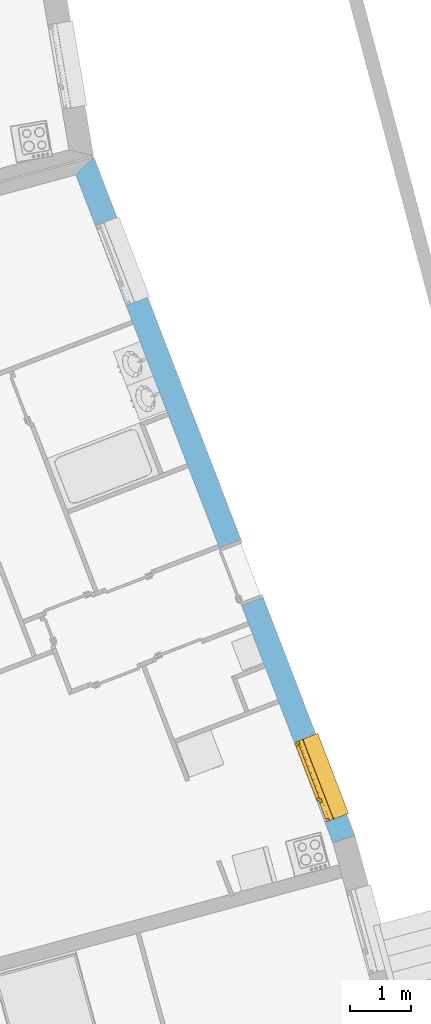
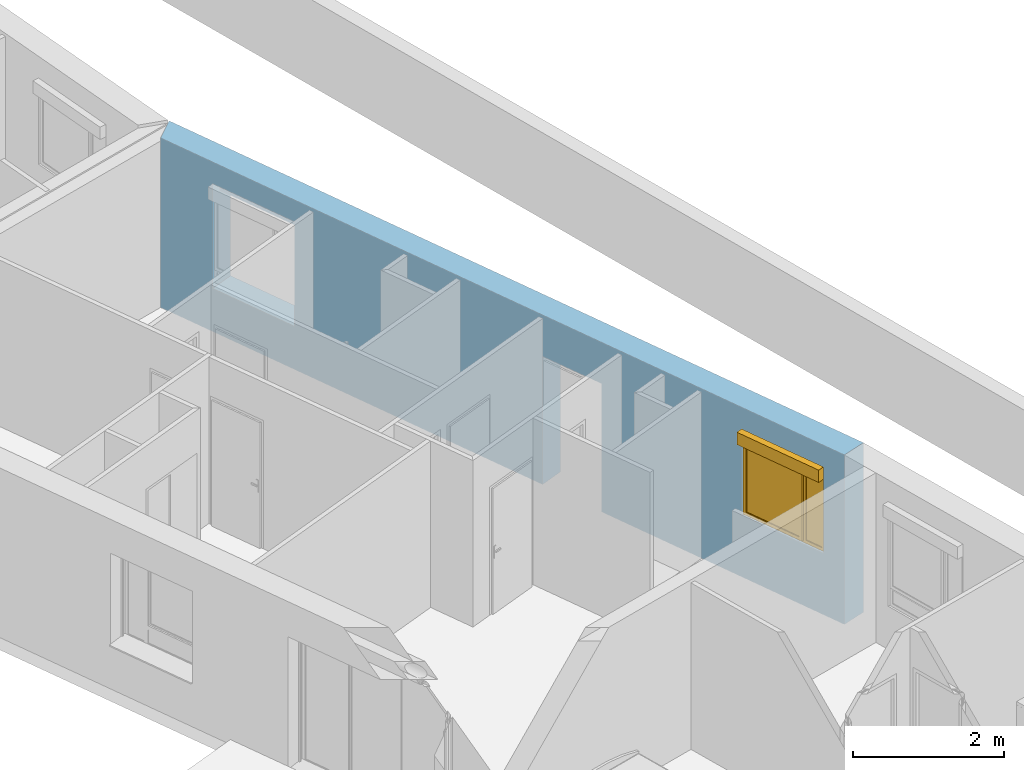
# One storey, part 79 of 195: 1 window, 3 openings, plus 1 element that does not belong to this part.
"""IFC2X3 building model written with IfcOpenShell, lengths in metres."""

from ifc_helpers import new_model, entity, si_unit, converted_unit, derived_unit, money_unit, direction, frame, origin_with_axes, origin_2d_with_axis, place, context, subcontext, project, spatial, polyline, rectangle, outline, extrude, open_shell, faceted_brep, surface_model, source, transform, mapped, material, layer, layer_set, layer_usage, type_object, element, fill, save


model = new_model("IFC2X3")

# Units and contexts
model_context = context("Model", 3, precision=1e-05, world=origin_with_axes(), true_north=direction((0.0, 1.0)))
body_context = subcontext(model_context, "Body", "Model", "MODEL_VIEW")
ifc_project = project(units=[si_unit("LENGTHUNIT", "METRE"), si_unit("AREAUNIT", "SQUARE_METRE"), si_unit("VOLUMEUNIT", "CUBIC_METRE"), converted_unit("PLANEANGLEUNIT", "DEGREE", entity("IfcPlaneAngleMeasure", 0.0174532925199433), si_unit("PLANEANGLEUNIT", "RADIAN"), dimensions=[0, 0, 0, 0, 0, 0, 0]), money_unit("CHF"), converted_unit("TIMEUNIT", "Year", entity("IfcTimeMeasure", 31557600.0), si_unit("TIMEUNIT", "SECOND"), dimensions=[0, 0, 1, 0, 0, 0, 0]), si_unit("MASSUNIT", "GRAM", prefix="KILO"), si_unit("THERMODYNAMICTEMPERATUREUNIT", "DEGREE_CELSIUS"), si_unit("LUMINOUSINTENSITYUNIT", "LUMEN"), si_unit("ENERGYUNIT", "JOULE", prefix="MEGA"), derived_unit("THERMALCONDUCTANCEUNIT", [(si_unit("POWERUNIT", "WATT"), 1), (si_unit("LENGTHUNIT", "METRE"), -1), (si_unit("THERMODYNAMICTEMPERATUREUNIT", "KELVIN"), -1)]), derived_unit("SPECIFICHEATCAPACITYUNIT", [(si_unit("ENERGYUNIT", "JOULE"), 1), (si_unit("MASSUNIT", "GRAM", prefix="KILO"), -1), (si_unit("THERMODYNAMICTEMPERATUREUNIT", "KELVIN"), -1)]), derived_unit("MASSDENSITYUNIT", [(si_unit("MASSUNIT", "GRAM", prefix="KILO"), 1), (si_unit("VOLUMEUNIT", "CUBIC_METRE"), -1)])], contexts=[model_context])

# Site, building, storey
site_placement = place(None, origin_with_axes())
site = spatial("IfcSite", under=ifc_project, at=site_placement, Name="Site", CompositionType="ELEMENT")
building_placement = place(site_placement, origin_with_axes())
building = spatial("IfcBuilding", under=site, at=building_placement, Name="Bâtiment", CompositionType="ELEMENT")
storey_placement = place(building_placement, origin_with_axes())
storey = spatial("IfcBuildingStorey", under=building, at=storey_placement, Name="rdc", CompositionType="ELEMENT", Elevation=0.0)

# Wall, openings, window
ifc_material_1 = material(Name="Parpaing 312445824")
ifc_layer_1 = layer(ifc_material_1, 0.22, ventilated="UNKNOWN")
ifc_material_2 = material(Name="Isolant styromousse 301821074")
ifc_layer_2 = layer(ifc_material_2, 0.16, ventilated="UNKNOWN")
ifc_layer_set = layer_set([ifc_layer_1, ifc_layer_2], Name="isol int 22+16 0836643197")
ifc_layer_usage = layer_usage(ifc_layer_set, "AXIS2", "NEGATIVE", 0.0)
wall_type = type_object("IfcWallType", Name="isol int 22+16 0836643197 380", PredefinedType="NOTDEFINED")
wall_placement = place(storey_placement, frame((9589.41527848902, -1033.618668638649, 57.7), z_axis=(0.0, 0.0, 1.0), x_axis=(0.3591526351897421, -0.9332788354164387, 0.0)))
wall = element("IfcWallStandardCase", 1, at=wall_placement, inside=storey, type_object=wall_type, material=ifc_layer_usage, Name="Mur-113", context=body_context, shape_type="SweptSolid", body=[
    extrude(outline(polyline([(0.162329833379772, -0.3800000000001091), (11.8445257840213, -0.3800000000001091), (11.8638283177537, 0.0), (0.0, 0.0), (0.162329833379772, -0.3800000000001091)])), origin_with_axes(), (0.0, 0.0, 1.0), 2.75),
])
opening_1_placement = place(wall_placement, frame((1.751472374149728, 0.0, 0.7000000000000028), z_axis=(0.0, 0.0, 1.0), x_axis=(1.0, 0.0, 0.0)))
element("IfcOpeningElement", 2, at=opening_1_placement, cuts=wall, Name="Fen-045", context=body_context, shape_type="Brep", body=[
    faceted_brep([(-0.7000000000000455, -0.220000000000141, 1.5), (0.6999999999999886, -0.2200000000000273, 1.5), (0.6999999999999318, 3.977631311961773, 1.5), (-0.7000000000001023, 3.977631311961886, 1.5), (-0.7000000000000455, -0.220000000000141, 1.700000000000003), (0.6999999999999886, -0.2200000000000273, 1.700000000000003), (0.6999999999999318, -0.3000000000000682, 1.5), (0.6999999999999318, -0.3000000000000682, 0.0), (0.6999999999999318, 3.977631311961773, 0.0), (-0.7000000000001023, 3.977631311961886, 0.0), (-0.7000000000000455, -0.3000000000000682, 1.5), (-0.7000000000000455, -0.3000000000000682, 0.0), (-0.7000000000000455, -0.4800000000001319, 1.5), (-0.7000000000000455, -0.4800000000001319, 1.700000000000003), (0.6999999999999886, -0.4800000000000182, 1.700000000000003), (0.6999999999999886, -0.4800000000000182, 1.5), (0.6999999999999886, -4.357631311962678, 1.5), (0.6999999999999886, -4.357631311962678, 0.0), (-0.6999999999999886, -4.357631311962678, 0.0), (-0.6999999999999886, -4.357631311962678, 1.5)], [[[0, 1, 2, 3]], [[1, 0, 4, 5]], [[1, 6, 7, 8, 2]], [[2, 8, 9, 3]], [[10, 0, 3, 9, 11]], [[0, 10, 12, 13, 4]], [[14, 5, 4, 13]], [[6, 1, 5, 14, 15]], [[6, 15, 16, 17, 7]], [[7, 11, 9, 8]], [[12, 10, 11, 18, 19]], [[12, 15, 14, 13]], [[15, 12, 19, 16]], [[19, 18, 17, 16]], [[11, 7, 17, 18]]]),
])
opening_2_placement = place(wall_placement, frame((10.78837826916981, 0.0, 1.0), z_axis=(0.0, 0.0, 1.0), x_axis=(1.0, 0.0, 0.0)))
opening_2 = element("IfcOpeningElement", 3, at=opening_2_placement, cuts=wall, Name="Fen-045", context=body_context, shape_type="Brep", body=[
    faceted_brep([(-0.7000000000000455, -0.220000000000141, 1.200000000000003), (0.6999999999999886, -0.2200000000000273, 1.200000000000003), (0.6999999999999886, 3.977631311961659, 1.200000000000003), (-0.6999999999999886, 3.977631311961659, 1.200000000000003), (-0.7000000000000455, -0.220000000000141, 1.399999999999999), (0.6999999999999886, -0.2200000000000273, 1.399999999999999), (0.6999999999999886, -0.3000000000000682, 1.200000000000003), (0.6999999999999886, -0.3000000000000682, 0.0), (0.6999999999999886, 3.977631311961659, 0.0), (-0.6999999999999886, 3.977631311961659, 0.0), (-0.7000000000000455, -0.3000000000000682, 1.200000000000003), (-0.7000000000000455, -0.3000000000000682, 0.0), (-0.7000000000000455, -0.4800000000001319, 1.200000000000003), (-0.7000000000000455, -0.4800000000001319, 1.399999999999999), (0.6999999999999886, -0.4800000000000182, 1.399999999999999), (0.6999999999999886, -0.4800000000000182, 1.200000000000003), (0.7000000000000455, -4.357631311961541, 1.200000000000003), (0.7000000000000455, -4.357631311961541, 0.0), (-0.7000000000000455, -4.357631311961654, 0.0), (-0.7000000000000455, -4.357631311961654, 1.200000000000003)], [[[0, 1, 2, 3]], [[1, 0, 4, 5]], [[1, 6, 7, 8, 2]], [[2, 8, 9, 3]], [[10, 0, 3, 9, 11]], [[0, 10, 12, 13, 4]], [[14, 5, 4, 13]], [[6, 1, 5, 14, 15]], [[6, 15, 16, 17, 7]], [[7, 11, 9, 8]], [[12, 10, 11, 18, 19]], [[12, 15, 14, 13]], [[15, 12, 19, 16]], [[19, 18, 17, 16]], [[11, 7, 17, 18]]]),
])
opening_3_placement = place(wall_placement, frame((7.19412400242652, 0.0, 0.0), z_axis=(0.0, 0.0, 1.0), x_axis=(1.0, 0.0, 0.0)))
element("IfcOpeningElement", 4, at=opening_3_placement, cuts=wall, Name="Por-290", context=body_context, shape_type="SweptSolid", body=[
    extrude(rectangle(XDim=1.01000001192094, YDim=2.079999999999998, at=origin_2d_with_axis()), frame((-5.960487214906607e-09, 0.3799999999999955, 1.039999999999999), z_axis=(0.0, -1.0, 0.0), x_axis=(-1.0, 0.0, 0.0)), (0.0, 0.0, 1.0), 0.76),
])
window_style = type_object("IfcWindowStyle", Name="Fenêtre variable 27", ConstructionType="NOTDEFINED", OperationType="DOUBLE_PANEL_VERTICAL", ParameterTakesPrecedence=False, Sizeable=False)
shared_shape = source(origin_with_axes(), body_context, "Body", "SurfaceModel", [
    surface_model("IfcShellBasedSurfaceModel", [(0.7, -0.05100000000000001, 0.05), (-0.7, -0.05100000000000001, 0.05000000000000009), (-0.7, -0.05100000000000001, 0.04000000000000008), (0.7, -0.05100000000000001, 0.04), (-0.7, -0.3799999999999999, 0.02900000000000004), (0.7, -0.3799999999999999, 0.02899999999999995), (-0.7, -0.3799999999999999, 0.00900000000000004), (0.7, -0.3799999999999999, 0.008999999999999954), (-0.7, -0.3699999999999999, 0.01900000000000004), (0.7, -0.3699999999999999, 0.01899999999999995)], [open_shell([[[0, 1, 2, 3]], [[3, 2, 4, 5]], [[5, 4, 6, 7]], [[7, 6, 8, 9]]])]),
    faceted_brep([(0.7, -0.13, 1.4), (0.7, 0.13, 1.4), (0.697, 0.13, 1.4), (0.697, -0.13, 1.4), (0.7, -0.13, 1.2), (0.7, 0.13, 1.2), (0.697, 0.13, 1.2), (0.697, -0.13, 1.2)], [[[0, 1, 2, 3]], [[0, 4, 5, 1]], [[1, 5, 6, 2]], [[3, 2, 6, 7]], [[4, 0, 3, 7]], [[5, 4, 7, 6]]]),
    faceted_brep([(-0.6970000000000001, -0.1299999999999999, 1.4), (-0.6970000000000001, 0.1300000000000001, 1.4), (-0.7000000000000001, 0.1300000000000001, 1.4), (-0.7000000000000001, -0.1299999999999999, 1.4), (-0.6970000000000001, -0.1299999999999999, 1.2), (-0.6970000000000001, 0.1300000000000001, 1.2), (-0.7000000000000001, 0.1300000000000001, 1.2), (-0.7000000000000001, -0.1299999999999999, 1.2)], [[[0, 1, 2, 3]], [[0, 4, 5, 1]], [[1, 5, 6, 2]], [[3, 2, 6, 7]], [[4, 0, 3, 7]], [[5, 4, 7, 6]]]),
    faceted_brep([(0.697, -0.13, 1.2), (0.697, -0.13, 1.4), (-0.697, -0.1299999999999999, 1.4), (-0.697, -0.1299999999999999, 1.2), (0.697, -0.127, 1.2), (0.697, -0.127, 1.397), (0.697, 0.127, 1.397), (0.697, 0.127, 1.203), (0.697, -0.108, 1.203), (0.697, -0.108, 1.2), (0.697, 0.13, 1.2), (0.697, 0.13, 1.4), (-0.697, 0.1300000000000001, 1.4), (-0.697, 0.1300000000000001, 1.2), (-0.697, -0.1079999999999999, 1.2), (-0.697, -0.1079999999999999, 1.203), (-0.697, 0.1270000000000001, 1.203), (-0.697, 0.1270000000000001, 1.397), (-0.697, -0.1269999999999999, 1.397), (-0.697, -0.1269999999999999, 1.2)], [[[0, 1, 2, 3]], [[0, 4, 5, 6, 7, 8, 9, 10, 11, 1]], [[1, 11, 12, 2]], [[3, 2, 12, 13, 14, 15, 16, 17, 18, 19]], [[4, 0, 3, 19]], [[5, 4, 19, 18]], [[6, 5, 18, 17]], [[7, 6, 17, 16]], [[8, 7, 16, 15]], [[9, 8, 15, 14]], [[10, 9, 14, 13]], [[11, 10, 13, 12]]]),
    faceted_brep([(0.694, -0.08075423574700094, 1.285760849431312), (0.694, -0.07705479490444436, 1.271954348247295), (0.694, -0.07101408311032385, 1.259), (0.694, -0.06281564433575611, 1.247291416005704), (0.694, -0.05270858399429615, 1.237184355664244), (0.694, -0.04099999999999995, 1.228985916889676), (0.694, -0.02804565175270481, 1.222945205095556), (0.694, -0.01423915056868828, 1.219245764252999), (0.694, 0.0, 1.218), (0.694, 0.01423915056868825, 1.219245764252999), (0.694, 0.02804565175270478, 1.222945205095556), (0.694, 0.04099999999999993, 1.228985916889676), (0.694, 0.05270858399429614, 1.237184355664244), (0.694, 0.06281564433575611, 1.247291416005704), (0.694, 0.07101408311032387, 1.259), (0.694, 0.07705479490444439, 1.271954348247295), (0.694, 0.08075423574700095, 1.285760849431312), (0.694, 0.0819999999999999, 1.3), (0.694, 0.08075423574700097, 1.314239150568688), (0.694, 0.0770547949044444, 1.328045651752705), (0.694, 0.07101408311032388, 1.341), (0.694, 0.06281564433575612, 1.352708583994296), (0.694, 0.05270858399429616, 1.362815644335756), (0.694, 0.04099999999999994, 1.371014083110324), (0.694, 0.02804565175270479, 1.377054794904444), (0.694, 0.01423915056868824, 1.380754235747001), (0.694, 0.0, 1.382), (0.694, -0.01423915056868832, 1.380754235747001), (0.694, -0.02804565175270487, 1.377054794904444), (0.694, -0.04100000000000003, 1.371014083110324), (0.694, -0.05270858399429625, 1.362815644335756), (0.694, -0.06281564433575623, 1.352708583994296), (0.694, -0.07101408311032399, 1.341), (0.694, -0.07705479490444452, 1.328045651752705), (0.694, -0.0807542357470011, 1.314239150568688), (0.694, -0.08200000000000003, 1.3), (-0.694, -0.08075423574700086, 1.285760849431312), (-0.694, -0.07705479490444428, 1.271954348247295), (-0.694, -0.07101408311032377, 1.259), (-0.694, -0.06281564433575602, 1.247291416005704), (-0.694, -0.05270858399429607, 1.237184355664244), (-0.694, -0.04099999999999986, 1.228985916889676), (-0.694, -0.02804565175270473, 1.222945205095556), (-0.694, -0.0142391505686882, 1.219245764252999), (-0.694, 0.0, 1.218), (-0.694, 0.01423915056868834, 1.219245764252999), (-0.694, 0.02804565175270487, 1.222945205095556), (-0.694, 0.04100000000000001, 1.228985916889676), (-0.694, 0.05270858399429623, 1.237184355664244), (-0.694, 0.06281564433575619, 1.247291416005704), (-0.694, 0.07101408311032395, 1.259), (-0.694, 0.07705479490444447, 1.271954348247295), (-0.694, 0.08075423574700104, 1.285760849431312), (-0.694, 0.08199999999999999, 1.3), (-0.694, 0.08075423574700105, 1.314239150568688), (-0.694, 0.07705479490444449, 1.328045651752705), (-0.694, 0.07101408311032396, 1.341), (-0.694, 0.0628156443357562, 1.352708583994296), (-0.694, 0.05270858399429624, 1.362815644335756), (-0.694, 0.04100000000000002, 1.371014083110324), (-0.694, 0.02804565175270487, 1.377054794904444), (-0.694, 0.01423915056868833, 1.380754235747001), (-0.694, 0.0, 1.382), (-0.694, -0.01423915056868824, 1.380754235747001), (-0.694, -0.02804565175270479, 1.377054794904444), (-0.694, -0.04099999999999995, 1.371014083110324), (-0.694, -0.05270858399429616, 1.362815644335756), (-0.694, -0.06281564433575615, 1.352708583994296), (-0.694, -0.07101408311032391, 1.341), (-0.694, -0.07705479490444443, 1.328045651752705), (-0.694, -0.08075423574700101, 1.314239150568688), (-0.694, -0.08199999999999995, 1.3)], [[[0, 1, 2, 3, 4, 5, 6, 7, 8, 9, 10, 11, 12, 13, 14, 15, 16, 17, 18, 19, 20, 21, 22, 23, 24, 25, 26, 27, 28, 29, 30, 31, 32, 33, 34, 35]], [[1, 0, 36, 37]], [[2, 1, 37, 38]], [[3, 2, 38, 39]], [[4, 3, 39, 40]], [[5, 4, 40, 41]], [[6, 5, 41, 42]], [[7, 6, 42, 43]], [[8, 7, 43, 44]], [[9, 8, 44, 45]], [[10, 9, 45, 46]], [[11, 10, 46, 47]], [[12, 11, 47, 48]], [[13, 12, 48, 49]], [[14, 13, 49, 50]], [[15, 14, 50, 51]], [[16, 15, 51, 52]], [[17, 16, 52, 53]], [[18, 17, 53, 54]], [[19, 18, 54, 55]], [[20, 19, 55, 56]], [[21, 20, 56, 57]], [[22, 21, 57, 58]], [[23, 22, 58, 59]], [[24, 23, 59, 60]], [[25, 24, 60, 61]], [[26, 25, 61, 62]], [[27, 26, 62, 63]], [[28, 27, 63, 64]], [[29, 28, 64, 65]], [[30, 29, 65, 66]], [[31, 30, 66, 67]], [[32, 31, 67, 68]], [[33, 32, 68, 69]], [[34, 33, 69, 70]], [[35, 34, 70, 71]], [[0, 35, 71, 36]], [[36, 71, 70, 69, 68, 67, 66, 65, 64, 63, 62, 61, 60, 59, 58, 57, 56, 55, 54, 53, 52, 51, 50, 49, 48, 47, 46, 45, 44, 43, 42, 41, 40, 39, 38, 37]]]),
    faceted_brep([(-0.7, -0.105, 0.03), (-0.7, -0.13, 0.03), (-0.7, -0.1299999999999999, 1.2), (-0.7, -0.1049999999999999, 1.2), (-0.6749999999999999, -0.105, 0.03), (-0.6749999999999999, -0.108, 0.03), (-0.697, -0.108, 0.03), (-0.697, -0.127, 0.03), (-0.6749999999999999, -0.127, 0.03), (-0.6749999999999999, -0.13, 0.03), (-0.6749999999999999, -0.1299999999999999, 1.2), (-0.6749999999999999, -0.1269999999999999, 1.2), (-0.697, -0.1269999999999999, 1.2), (-0.697, -0.1079999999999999, 1.2), (-0.6749999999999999, -0.1079999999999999, 1.2), (-0.6749999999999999, -0.1049999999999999, 1.2)], [[[0, 1, 2, 3]], [[0, 4, 5, 6, 7, 8, 9, 1]], [[1, 9, 10, 2]], [[3, 2, 10, 11, 12, 13, 14, 15]], [[4, 0, 3, 15]], [[5, 4, 15, 14]], [[6, 5, 14, 13]], [[7, 6, 13, 12]], [[8, 7, 12, 11]], [[9, 8, 11, 10]]]),
    faceted_brep([(0.7, -0.105, 0.03), (0.7, -0.1049999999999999, 1.2), (0.7, -0.1299999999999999, 1.2), (0.7, -0.13, 0.03), (0.6749999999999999, -0.105, 0.03), (0.6749999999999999, -0.1049999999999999, 1.2), (0.6749999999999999, -0.1079999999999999, 1.2), (0.697, -0.1079999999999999, 1.2), (0.697, -0.1269999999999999, 1.2), (0.6749999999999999, -0.1269999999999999, 1.2), (0.6749999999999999, -0.1299999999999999, 1.2), (0.6749999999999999, -0.13, 0.03), (0.6749999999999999, -0.127, 0.03), (0.697, -0.127, 0.03), (0.697, -0.108, 0.03), (0.6749999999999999, -0.108, 0.03)], [[[0, 1, 2, 3]], [[4, 5, 1, 0]], [[1, 5, 6, 7, 8, 9, 10, 2]], [[3, 2, 10, 11]], [[0, 3, 11, 12, 13, 14, 15, 4]], [[15, 6, 5, 4]], [[14, 7, 6, 15]], [[13, 8, 7, 14]], [[12, 9, 8, 13]], [[11, 10, 9, 12]]]),
    surface_model("IfcShellBasedSurfaceModel", [(0.697, -0.115, 1.3), (-0.697, -0.1149999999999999, 1.3), (-0.697, -0.12, 1.3), (0.697, -0.12, 1.3), (0.697, -0.115, 1.3), (0.697, -0.12, 1.3), (-0.697, -0.1199999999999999, 1.3), (-0.697, -0.1149999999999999, 1.3)], [open_shell([[[0, 1, 2, 3]], [[4, 5, 6, 7]]])]),
    faceted_brep([(0.697, -0.115, 1.3), (0.697, -0.1166666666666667, 1.283333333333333), (-0.697, -0.1166666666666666, 1.283333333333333), (-0.697, -0.1149999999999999, 1.3), (0.697, -0.12, 1.3), (0.697, -0.1216666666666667, 1.283333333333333), (0.697, -0.1216666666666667, 1.266666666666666), (0.697, -0.12, 1.25), (0.697, -0.115, 1.25), (0.697, -0.1166666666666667, 1.266666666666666), (-0.697, -0.1166666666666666, 1.266666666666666), (-0.697, -0.1149999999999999, 1.25), (-0.697, -0.1199999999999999, 1.25), (-0.697, -0.1216666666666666, 1.266666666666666), (-0.697, -0.1216666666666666, 1.283333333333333), (-0.697, -0.1199999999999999, 1.3)], [[[0, 1, 2, 3]], [[0, 4, 5, 6, 7, 8, 9, 1]], [[1, 9, 10, 2]], [[3, 2, 10, 11, 12, 13, 14, 15]], [[4, 0, 3, 15]], [[5, 4, 15, 14]], [[6, 5, 14, 13]], [[7, 6, 13, 12]], [[8, 7, 12, 11]], [[9, 8, 11, 10]]]),
    faceted_brep([(0.697, -0.115, 1.25), (0.697, -0.1166666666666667, 1.233333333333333), (-0.697, -0.1166666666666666, 1.233333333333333), (-0.697, -0.1149999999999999, 1.25), (0.697, -0.12, 1.25), (0.697, -0.1216666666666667, 1.233333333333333), (0.697, -0.1216666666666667, 1.216666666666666), (0.697, -0.12, 1.2), (0.697, -0.115, 1.2), (0.697, -0.1166666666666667, 1.216666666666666), (-0.697, -0.1166666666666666, 1.216666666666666), (-0.697, -0.1149999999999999, 1.2), (-0.697, -0.1199999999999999, 1.2), (-0.697, -0.1216666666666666, 1.216666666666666), (-0.697, -0.1216666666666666, 1.233333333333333), (-0.697, -0.1199999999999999, 1.25)], [[[0, 1, 2, 3]], [[0, 4, 5, 6, 7, 8, 9, 1]], [[1, 9, 10, 2]], [[3, 2, 10, 11, 12, 13, 14, 15]], [[4, 0, 3, 15]], [[5, 4, 15, 14]], [[6, 5, 14, 13]], [[7, 6, 13, 12]], [[8, 7, 12, 11]], [[9, 8, 11, 10]]]),
    faceted_brep([(0.6749999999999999, 0.0, 1.15), (0.6749999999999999, -0.02500000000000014, 1.15), (0.6499999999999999, -0.02500000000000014, 1.15), (0.6499999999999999, -0.05000000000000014, 1.15), (0.7, -0.05000000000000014, 1.15), (0.7, 0.0, 1.15), (0.6749999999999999, 0.0, 0.05000000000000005), (0.6749999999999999, -0.02500000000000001, 0.05000000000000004), (0.6499999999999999, -0.02500000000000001, 0.05000000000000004), (0.6499999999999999, -0.05000000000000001, 0.05000000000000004), (0.7, -0.05000000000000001, 0.05000000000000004), (0.7, 0.0, 0.05000000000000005)], [[[0, 1, 2, 3, 4, 5]], [[1, 0, 6, 7]], [[8, 2, 1, 7]], [[2, 8, 9, 3]], [[4, 3, 9, 10]], [[5, 4, 10, 11]], [[6, 0, 5, 11]], [[7, 6, 11, 10, 9, 8]]]),
    faceted_brep([(-0.3068894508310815, -0.02500000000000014, 1.15), (-0.3318894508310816, -0.02500000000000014, 1.15), (-0.3318894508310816, 0.0, 1.15), (-0.3768894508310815, 0.0, 1.15), (-0.3768894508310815, -0.05000000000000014, 1.15), (-0.3068894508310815, -0.05000000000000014, 1.15), (-0.3068894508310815, -0.02500000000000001, 0.05000000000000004), (-0.3318894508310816, -0.02500000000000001, 0.05000000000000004), (-0.3318894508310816, 0.0, 0.05000000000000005), (-0.3768894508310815, 0.0, 0.05000000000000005), (-0.3768894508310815, -0.05000000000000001, 0.05000000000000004), (-0.3068894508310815, -0.05000000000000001, 0.05000000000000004)], [[[0, 1, 2, 3, 4, 5]], [[1, 0, 6, 7]], [[8, 2, 1, 7]], [[2, 8, 9, 3]], [[9, 10, 4, 3]], [[10, 11, 5, 4]], [[6, 0, 5, 11]], [[7, 6, 11, 10, 9, 8]]]),
    faceted_brep([(-0.3068894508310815, -0.02500000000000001, 0.05000000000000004), (-0.3318894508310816, -0.02500000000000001, 0.05000000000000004), (-0.3318894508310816, 0.0, 0.05000000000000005), (-0.3768894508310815, 0.0, 0.05000000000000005), (-0.3768894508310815, -0.05000000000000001, 0.05000000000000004), (-0.3068894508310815, -0.05000000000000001, 0.05000000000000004), (0.6499999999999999, -0.02500000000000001, 0.05000000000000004), (0.6749999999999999, -0.02500000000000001, 0.05000000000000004), (0.6749999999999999, -0.025, 0.02500000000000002), (-0.3318894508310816, -0.025, 0.02500000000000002), (-0.3318894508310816, 0.0, 0.02500000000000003), (0.6749999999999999, 0.0, 0.02500000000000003), (0.6749999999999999, 0.0, 0.05000000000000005), (0.7, 0.0, 0.05000000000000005), (0.7, 0.0, 0.0), (-0.7, 0.0, 0.0), (-0.7, 0.0, 0.05000000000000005), (-0.6499999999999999, 0.0, 0.05000000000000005), (-0.6499999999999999, -0.05000000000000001, 0.05000000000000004), (0.7, -0.05000000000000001, 0.05000000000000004), (0.6499999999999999, -0.05000000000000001, 0.05000000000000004), (-0.7, -0.05000000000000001, 0.05000000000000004), (-0.7, -0.05, 0.0), (0.7, -0.05, 0.0)], [[[0, 1, 2, 3, 4, 5]], [[1, 0, 6, 7, 8, 9]], [[10, 2, 1, 9]], [[11, 12, 13, 14, 15, 16, 17, 3, 2, 10]], [[17, 18, 4, 3]], [[19, 20, 5, 4, 18, 21, 22, 23]], [[6, 0, 5, 20]], [[7, 6, 20, 19, 13, 12]], [[7, 12, 11, 8]], [[11, 10, 9, 8]], [[13, 19, 23, 14]], [[14, 23, 22, 15]], [[15, 22, 21, 16]], [[16, 21, 18, 17]]]),
    faceted_brep([(0.6749999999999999, 0.0, 1.15), (0.6749999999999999, 0.0, 1.175), (-0.3318894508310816, 0.0, 1.175), (-0.3318894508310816, 0.0, 1.15), (-0.3768894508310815, 0.0, 1.15), (-0.6499999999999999, 0.0, 1.15), (-0.7, 0.0, 1.15), (-0.7, 0.0, 1.2), (0.7, 0.0, 1.2), (0.7, 0.0, 1.15), (0.6749999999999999, -0.02500000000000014, 1.15), (0.6749999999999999, -0.02500000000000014, 1.175), (-0.3318894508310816, -0.02500000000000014, 1.175), (-0.3318894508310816, -0.02500000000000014, 1.15), (-0.3068894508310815, -0.02500000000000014, 1.15), (-0.3068894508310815, -0.05000000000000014, 1.15), (-0.3768894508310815, -0.05000000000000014, 1.15), (-0.6499999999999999, -0.05000000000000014, 1.15), (-0.7, -0.05000000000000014, 1.15), (-0.7, -0.05000000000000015, 1.2), (0.7, -0.05000000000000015, 1.2), (0.7, -0.05000000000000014, 1.15), (0.6499999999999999, -0.05000000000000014, 1.15), (0.6499999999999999, -0.02500000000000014, 1.15)], [[[0, 1, 2, 3, 4, 5, 6, 7, 8, 9]], [[1, 0, 10, 11]], [[2, 1, 11, 12]], [[3, 2, 12, 13]], [[13, 14, 15, 16, 4, 3]], [[4, 16, 17, 5]], [[5, 17, 18, 6]], [[6, 18, 19, 7]], [[7, 19, 20, 8]], [[8, 20, 21, 9]], [[10, 0, 9, 21, 22, 23]], [[14, 13, 12, 11, 10, 23]], [[14, 23, 22, 15]], [[16, 15, 22, 21, 20, 19, 18, 17]]]),
    faceted_brep([(-0.6499999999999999, -0.05000000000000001, 0.05), (-0.7, -0.05000000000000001, 0.05), (-0.7, 0.0, 0.05000000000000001), (-0.6499999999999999, 0.0, 0.05000000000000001), (-0.6499999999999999, -0.05000000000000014, 1.15), (-0.7, -0.05000000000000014, 1.15), (-0.7, 0.0, 1.15), (-0.6499999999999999, 0.0, 1.15)], [[[0, 1, 2, 3]], [[0, 4, 5, 1]], [[1, 5, 6, 2]], [[3, 2, 6, 7]], [[4, 0, 3, 7]], [[5, 4, 7, 6]]]),
    faceted_brep([(0.625, -0.02500000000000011, 1.125), (0.6749999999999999, -0.02500000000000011, 1.125), (0.6749999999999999, 0.0249999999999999, 1.125), (0.625, 0.0249999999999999, 1.125), (0.625, -0.02499999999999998, 0.07500000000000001), (0.6749999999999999, -0.02499999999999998, 0.07500000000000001), (0.6749999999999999, 0.02500000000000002, 0.07500000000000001), (0.625, 0.02500000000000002, 0.07500000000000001)], [[[0, 1, 2, 3]], [[0, 4, 5, 1]], [[1, 5, 6, 2]], [[3, 2, 6, 7]], [[4, 0, 3, 7]], [[5, 4, 7, 6]]]),
    faceted_brep([(-0.2818894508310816, -0.02500000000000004, 0.07500000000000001), (-0.3318894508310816, -0.02500000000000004, 0.07500000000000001), (-0.3318894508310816, 0.02499999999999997, 0.07500000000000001), (-0.2818894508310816, 0.02499999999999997, 0.07500000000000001), (-0.2818894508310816, -0.02500000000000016, 1.125), (-0.3318894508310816, -0.02500000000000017, 1.125), (-0.3318894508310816, 0.02499999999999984, 1.125), (-0.2818894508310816, 0.02499999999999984, 1.125)], [[[0, 1, 2, 3]], [[0, 4, 5, 1]], [[1, 5, 6, 2]], [[3, 2, 6, 7]], [[4, 0, 3, 7]], [[5, 4, 7, 6]]]),
    faceted_brep([(-0.3318894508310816, -0.02500000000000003, 0.025), (-0.3318894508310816, -0.02500000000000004, 0.07500000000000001), (-0.3318894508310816, 0.02499999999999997, 0.07500000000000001), (-0.3318894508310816, 0.02499999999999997, 0.02500000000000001), (0.6749999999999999, -0.02499999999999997, 0.025), (0.6749999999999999, -0.02499999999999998, 0.07500000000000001), (0.625, -0.02499999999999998, 0.07500000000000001), (-0.2818894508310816, -0.02500000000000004, 0.07500000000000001), (-0.2818894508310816, 0.02499999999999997, 0.07500000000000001), (0.625, 0.02500000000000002, 0.07500000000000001), (0.6749999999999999, 0.02500000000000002, 0.07500000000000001), (0.6749999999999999, 0.02500000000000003, 0.02500000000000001)], [[[0, 1, 2, 3]], [[0, 4, 5, 6, 7, 1]], [[1, 7, 8, 2]], [[3, 2, 8, 9, 10, 11]], [[4, 0, 3, 11]], [[5, 4, 11, 10]], [[6, 5, 10, 9]], [[7, 6, 9, 8]]]),
    faceted_brep([(0.6749999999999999, -0.02500000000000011, 1.175), (0.6749999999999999, -0.02500000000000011, 1.125), (0.6749999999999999, 0.0249999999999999, 1.125), (0.6749999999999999, 0.02499999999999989, 1.175), (-0.3318894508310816, -0.02500000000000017, 1.175), (-0.3318894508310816, -0.02500000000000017, 1.125), (-0.2818894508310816, -0.02500000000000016, 1.125), (0.625, -0.02500000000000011, 1.125), (0.625, 0.0249999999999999, 1.125), (-0.2818894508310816, 0.02499999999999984, 1.125), (-0.3318894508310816, 0.02499999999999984, 1.125), (-0.3318894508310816, 0.02499999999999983, 1.175)], [[[0, 1, 2, 3]], [[0, 4, 5, 6, 7, 1]], [[1, 7, 8, 2]], [[3, 2, 8, 9, 10, 11]], [[4, 0, 3, 11]], [[5, 4, 11, 10]], [[6, 5, 10, 9]], [[7, 6, 9, 8]]]),
    surface_model("IfcShellBasedSurfaceModel", [(0.625, -0.01000000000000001, 0.07500000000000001), (0.625, -0.01000000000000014, 1.125), (-0.2818894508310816, -0.01000000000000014, 1.125), (-0.2818894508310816, -0.01000000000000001, 0.07500000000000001)], [open_shell([[[0, 1, 2, 3]]])]),
    surface_model("IfcShellBasedSurfaceModel", [(0.625, 0.009999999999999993, 0.07500000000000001), (-0.2818894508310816, 0.009999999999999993, 0.07500000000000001), (-0.2818894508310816, 0.009999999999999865, 1.125), (0.625, 0.009999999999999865, 1.125)], [open_shell([[[0, 1, 2, 3]]])]),
    surface_model("IfcShellBasedSurfaceModel", [(-0.3768894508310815, -0.035, 0.05), (-0.3768894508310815, -0.03500000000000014, 1.15), (-0.65, -0.03500000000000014, 1.15), (-0.65, -0.035, 0.05)], [open_shell([[[0, 1, 2, 3]]])]),
    surface_model("IfcShellBasedSurfaceModel", [(-0.3768894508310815, -0.015, 0.05), (-0.65, -0.015, 0.05), (-0.65, -0.01500000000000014, 1.15), (-0.3768894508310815, -0.01500000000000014, 1.15)], [open_shell([[[0, 1, 2, 3]]])]),
])
window_placement = place(opening_2_placement, frame((0.7000000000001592, 0.0, 0.0), z_axis=(0.0, 0.0, 1.0), x_axis=(-1.0, 0.0, 0.0)))
window = element("IfcWindow", 5, at=window_placement, inside=storey, type_object=window_style, Name="Fen-045", OverallHeight=1.2, OverallWidth=1.4, context=body_context, shape_type="MappedRepresentation", body=[
    mapped(shared_shape, transform((0.7000000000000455, 0.3500000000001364, 0.0))),
])
fill(opening_2, window)

save(model, "model.ifc")
